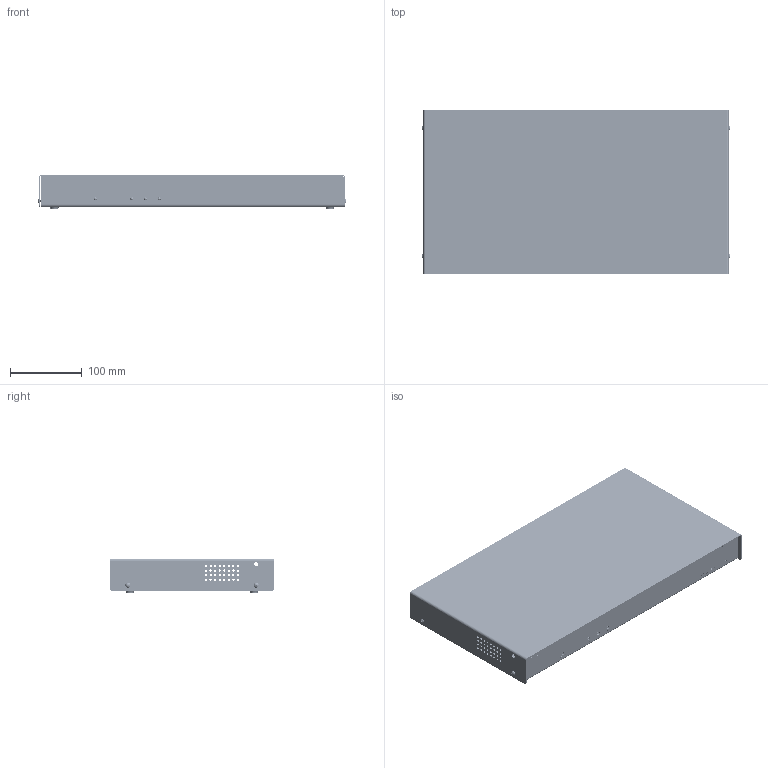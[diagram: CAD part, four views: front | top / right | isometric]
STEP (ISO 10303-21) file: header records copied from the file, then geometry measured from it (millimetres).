
FILE_DESCRIPTION(/* description */ (''),/* implementation_level */ '2;1');
FILE_NAME(/* name */ 'C:/Users/brook/OneDrive/Desktop/ECData/DBU-V11/DBU-V11.step',/* time_stamp */ '2022-08-18T10:42:25-04:00',/* author */ (''),/* organization */ (''),/* preprocessor_version */ 'ST-DEVELOPER v19',/* originating_system */ 'Autodesk Translation Framework v11.7.0.108',/* authorisation */ '');
FILE_SCHEMA (('AUTOMOTIVE_DESIGN { 1 0 10303 214 3 1 1 }'));
Products named in the file (18): Master Assembly; Chassis; CLS-832-2-PennEngineering-3D-06-03-2022; 93090A210_Press-Fit Threaded Standoffs; 702001 ; Component1; 107012; 702002; 715000; 116019-A PCB; 710001; K42X-A15P-S-A4N_rA3; 713005; IF-14-16--3DModel-STEP-231308; 715016; FHS-632-8; 715001; 715018
Assembly tree (60 placements, depth 3):
  Master Assembly
    Chassis
      CLS-832-2-PennEngineering-3D-06-03-2022  x4
      93090A210_Press-Fit Threaded Standoffs  x3
    702001 
      Component1
    107012
    702002
    715018  x4
    715000  x20
    116019-A PCB
      710001  x4
      K42X-A15P-S-A4N_rA3  x5
      713005  x5
      IF-14-16--3DModel-STEP-231308
    715016  x3
    FHS-632-8
    715001  x4
Bounding box: 430.28 x 228.6 x 47.98 mm (x, y, z)
Volume: 637925.5 mm3; surface area: 682220.5 mm2
Topology: 72 solids, 76 shells, 14308 faces, 37698 edges, 24408 vertices
Faces by surface type: plane 7366, bspline 3786, cylinder 2328, torus 335, cone 310, sphere 183
Full cylindrical faces by diameter (mm): 0.762 x8, 0.885 x1, 0.925 x1, 1 x75, 1.2 x75, 1.333 x5, 1.4 x2, 2.02 x48, 2.271 x40, 2.35 x20, 2.413 x4, 2.474 x32, 2.6 x3, 2.845 x88, 2.9 x30, 2.91 x1, 3 x3, 3.1 x2, 3.14 x20, 3.175 x84, 3.307 x4, 3.4 x20, 3.48 x1, 3.505 x36, 3.556 x3, 4.1 x20, 4.191 x3, 4.216 x3, 4.45 x4, 4.75 x8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
Entity records: 387378 total; most frequent: CARTESIAN_POINT 147456, ORIENTED_EDGE 55042, DIRECTION 35468, EDGE_CURVE 27521, VERTEX_POINT 18036, LINE 17360, VECTOR 17360, EDGE_LOOP 11237
